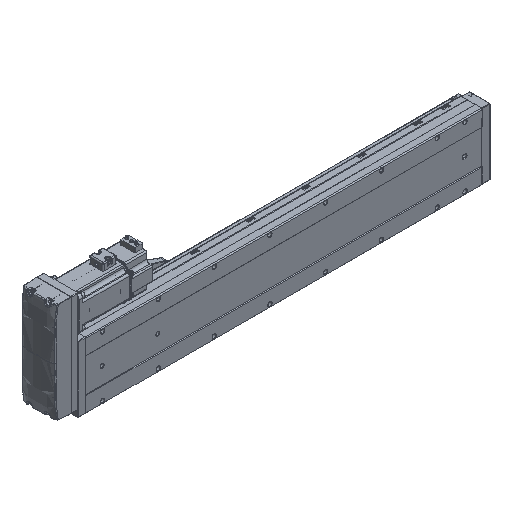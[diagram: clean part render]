
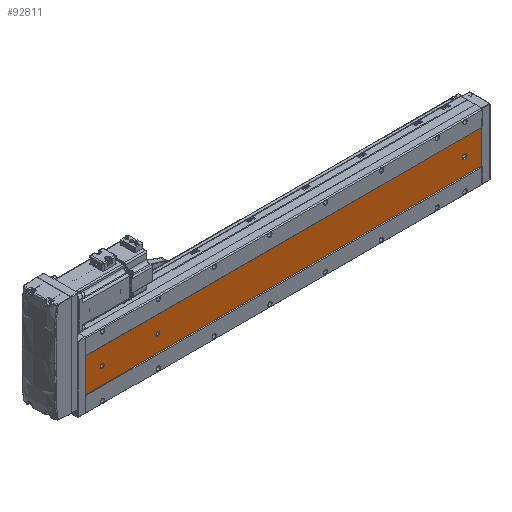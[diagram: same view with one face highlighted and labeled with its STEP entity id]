
A CAD part, isometric view. The second image highlights one B-rep face of the part: STEP entity #92811.
In plain terms, the highlighted planar face has unit normal (0, -1, 0).
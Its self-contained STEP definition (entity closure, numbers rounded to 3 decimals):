
#1593 = CARTESIAN_POINT ( 'NONE',  ( -39.892, -52.848, 681. ) ) ;
#2751 = DIRECTION ( 'NONE',  ( 0., 1., 0. ) ) ;
#3561 = CIRCLE ( 'NONE', #30896, 3.5 ) ;
#3612 = VECTOR ( 'NONE', #20964, 1000. ) ;
#3945 = FACE_OUTER_BOUND ( 'NONE', #68068, .T. ) ;
#4437 = AXIS2_PLACEMENT_3D ( 'NONE', #53413, #62006, #46222 ) ;
#4823 = EDGE_LOOP ( 'NONE', ( #72146, #85753, #62759, #50422, #26899 ) ) ;
#4995 = VECTOR ( 'NONE', #31730, 1000. ) ;
#5261 = DIRECTION ( 'NONE',  ( 0., 0., 1. ) ) ;
#5380 = DIRECTION ( 'NONE',  ( 0., 0., 1. ) ) ;
#5729 = CARTESIAN_POINT ( 'NONE',  ( -9.892, -52.848, 0. ) ) ;
#5938 = VERTEX_POINT ( 'NONE', #78530 ) ;
#5959 = ORIENTED_EDGE ( 'NONE', *, *, #11848, .T. ) ;
#6260 = EDGE_CURVE ( 'NONE', #79007, #98819, #42257, .T. ) ;
#7540 = LINE ( 'NONE', #62255, #3612 ) ;
#8689 = CARTESIAN_POINT ( 'NONE',  ( -39.892, -52.848, 584.5 ) ) ;
#9190 = EDGE_CURVE ( 'NONE', #52177, #98819, #76584, .T. ) ;
#9727 = VECTOR ( 'NONE', #43948, 1000. ) ;
#11047 = DIRECTION ( 'NONE',  ( 0., 1., 0. ) ) ;
#11249 = EDGE_CURVE ( 'NONE', #46476, #102303, #3561, .T. ) ;
#11294 = CARTESIAN_POINT ( 'NONE',  ( -69.892, -52.848, 711. ) ) ;
#11848 = EDGE_CURVE ( 'NONE', #37457, #72638, #85525, .T. ) ;
#12790 = VERTEX_POINT ( 'NONE', #15969 ) ;
#13937 = DIRECTION ( 'NONE',  ( 0., 1., 0. ) ) ;
#15969 = CARTESIAN_POINT ( 'NONE',  ( -39.892, -52.848, 26.5 ) ) ;
#15971 = ORIENTED_EDGE ( 'NONE', *, *, #6260, .T. ) ;
#17703 = VECTOR ( 'NONE', #21787, 1000. ) ;
#17845 = CARTESIAN_POINT ( 'NONE',  ( -39.892, -52.848, 30. ) ) ;
#17848 = VERTEX_POINT ( 'NONE', #60575 ) ;
#18810 = ORIENTED_EDGE ( 'NONE', *, *, #70219, .T. ) ;
#19869 = ORIENTED_EDGE ( 'NONE', *, *, #11249, .T. ) ;
#20964 = DIRECTION ( 'NONE',  ( 0., 0., 1. ) ) ;
#21787 = DIRECTION ( 'NONE',  ( 0., 0., -1. ) ) ;
#24135 = CARTESIAN_POINT ( 'NONE',  ( -69.892, -52.848, 0. ) ) ;
#24327 = LINE ( 'NONE', #11294, #78330 ) ;
#26899 = ORIENTED_EDGE ( 'NONE', *, *, #57830, .T. ) ;
#27438 = EDGE_CURVE ( 'NONE', #67354, #79007, #24327, .T. ) ;
#28946 = AXIS2_PLACEMENT_3D ( 'NONE', #103701, #13937, #5380 ) ;
#30896 = AXIS2_PLACEMENT_3D ( 'NONE', #51245, #11047, #60966 ) ;
#31730 = DIRECTION ( 'NONE',  ( 1., 0., 0. ) ) ;
#31925 = AXIS2_PLACEMENT_3D ( 'NONE', #72663, #81574, #65106 ) ;
#32073 = CARTESIAN_POINT ( 'NONE',  ( -69.892, -52.848, 0. ) ) ;
#34851 = EDGE_CURVE ( 'NONE', #67354, #52177, #94343, .T. ) ;
#35888 = AXIS2_PLACEMENT_3D ( 'NONE', #17845, #2751, #84201 ) ;
#36522 = CARTESIAN_POINT ( 'NONE',  ( -39.892, -52.848, 30. ) ) ;
#37457 = VERTEX_POINT ( 'NONE', #73614 ) ;
#38142 = EDGE_CURVE ( 'NONE', #42643, #5938, #67538, .T. ) ;
#39258 = AXIS2_PLACEMENT_3D ( 'NONE', #1593, #94170, #43237 ) ;
#40902 = AXIS2_PLACEMENT_3D ( 'NONE', #54107, #46193, #5261 ) ;
#42257 = LINE ( 'NONE', #32073, #4995 ) ;
#42643 = VERTEX_POINT ( 'NONE', #59329 ) ;
#43237 = DIRECTION ( 'NONE',  ( 0., 0., 1. ) ) ;
#43948 = DIRECTION ( 'NONE',  ( 0., 0., -1. ) ) ;
#44432 = DIRECTION ( 'NONE',  ( 0., 1., 0. ) ) ;
#45024 = CARTESIAN_POINT ( 'NONE',  ( -9.892, -52.848, 711. ) ) ;
#46193 = DIRECTION ( 'NONE',  ( 0., 1., 0. ) ) ;
#46222 = DIRECTION ( 'NONE',  ( 0., 0., 1. ) ) ;
#46476 = VERTEX_POINT ( 'NONE', #8689 ) ;
#46946 = VECTOR ( 'NONE', #85618, 1000. ) ;
#46958 = CARTESIAN_POINT ( 'NONE',  ( -36.392, -52.848, 30. ) ) ;
#48433 = CIRCLE ( 'NONE', #35888, 3.5 ) ;
#48810 = ORIENTED_EDGE ( 'NONE', *, *, #74607, .T. ) ;
#50422 = ORIENTED_EDGE ( 'NONE', *, *, #58434, .T. ) ;
#51245 = CARTESIAN_POINT ( 'NONE',  ( -39.892, -52.848, 581. ) ) ;
#52177 = VERTEX_POINT ( 'NONE', #86750 ) ;
#52354 = CARTESIAN_POINT ( 'NONE',  ( -39.892, -52.848, 577.5 ) ) ;
#53413 = CARTESIAN_POINT ( 'NONE',  ( -39.892, -52.848, 581. ) ) ;
#54107 = CARTESIAN_POINT ( 'NONE',  ( -39.892, -52.848, 681. ) ) ;
#54208 = EDGE_CURVE ( 'NONE', #17848, #42643, #7540, .T. ) ;
#57830 = EDGE_CURVE ( 'NONE', #12790, #17848, #66421, .T. ) ;
#58434 = EDGE_CURVE ( 'NONE', #102875, #12790, #48433, .T. ) ;
#58536 = CARTESIAN_POINT ( 'NONE',  ( -69.892, -52.848, 711. ) ) ;
#59329 = CARTESIAN_POINT ( 'NONE',  ( -43.392, -52.848, 32. ) ) ;
#60575 = CARTESIAN_POINT ( 'NONE',  ( -43.392, -52.848, 30. ) ) ;
#60966 = DIRECTION ( 'NONE',  ( 0., 0., 1. ) ) ;
#62006 = DIRECTION ( 'NONE',  ( 0., 1., 0. ) ) ;
#62255 = CARTESIAN_POINT ( 'NONE',  ( -43.392, -52.848, 711. ) ) ;
#62759 = ORIENTED_EDGE ( 'NONE', *, *, #86228, .T. ) ;
#63867 = EDGE_LOOP ( 'NONE', ( #18810, #19869 ) ) ;
#64693 = CIRCLE ( 'NONE', #4437, 3.5 ) ;
#65106 = DIRECTION ( 'NONE',  ( 0., 0., 1. ) ) ;
#66421 = CIRCLE ( 'NONE', #77075, 3.5 ) ;
#66875 = FACE_BOUND ( 'NONE', #4823, .T. ) ;
#67354 = VERTEX_POINT ( 'NONE', #58536 ) ;
#67538 = CIRCLE ( 'NONE', #28946, 3.5 ) ;
#68068 = EDGE_LOOP ( 'NONE', ( #15971, #100600, #88115, #93863 ) ) ;
#68465 = DIRECTION ( 'NONE',  ( 0., 0., 1. ) ) ;
#70219 = EDGE_CURVE ( 'NONE', #102303, #46476, #64693, .T. ) ;
#72064 = FACE_BOUND ( 'NONE', #94772, .T. ) ;
#72146 = ORIENTED_EDGE ( 'NONE', *, *, #54208, .T. ) ;
#72638 = VERTEX_POINT ( 'NONE', #89772 ) ;
#72663 = CARTESIAN_POINT ( 'NONE',  ( -69.892, -52.848, 711. ) ) ;
#73296 = FACE_BOUND ( 'NONE', #63867, .T. ) ;
#73614 = CARTESIAN_POINT ( 'NONE',  ( -39.892, -52.848, 677.5 ) ) ;
#74607 = EDGE_CURVE ( 'NONE', #72638, #37457, #95982, .T. ) ;
#76584 = LINE ( 'NONE', #45024, #9727 ) ;
#77075 = AXIS2_PLACEMENT_3D ( 'NONE', #36522, #44432, #68465 ) ;
#78330 = VECTOR ( 'NONE', #94539, 1000. ) ;
#78530 = CARTESIAN_POINT ( 'NONE',  ( -36.392, -52.848, 32. ) ) ;
#79007 = VERTEX_POINT ( 'NONE', #24135 ) ;
#81574 = DIRECTION ( 'NONE',  ( 0., 1., 0. ) ) ;
#83172 = LINE ( 'NONE', #101462, #17703 ) ;
#84201 = DIRECTION ( 'NONE',  ( 0., 0., 1. ) ) ;
#85525 = CIRCLE ( 'NONE', #39258, 3.5 ) ;
#85618 = DIRECTION ( 'NONE',  ( 1., 0., 0. ) ) ;
#85753 = ORIENTED_EDGE ( 'NONE', *, *, #38142, .T. ) ;
#86228 = EDGE_CURVE ( 'NONE', #5938, #102875, #83172, .T. ) ;
#86750 = CARTESIAN_POINT ( 'NONE',  ( -9.892, -52.848, 711. ) ) ;
#88115 = ORIENTED_EDGE ( 'NONE', *, *, #34851, .F. ) ;
#89772 = CARTESIAN_POINT ( 'NONE',  ( -39.892, -52.848, 684.5 ) ) ;
#92811 = ADVANCED_FACE ( 'NONE', ( #66875, #73296, #72064, #3945 ), #97375, .F. ) ;
#93863 = ORIENTED_EDGE ( 'NONE', *, *, #27438, .T. ) ;
#94170 = DIRECTION ( 'NONE',  ( 0., 1., 0. ) ) ;
#94343 = LINE ( 'NONE', #102509, #46946 ) ;
#94539 = DIRECTION ( 'NONE',  ( 0., 0., -1. ) ) ;
#94772 = EDGE_LOOP ( 'NONE', ( #5959, #48810 ) ) ;
#95982 = CIRCLE ( 'NONE', #40902, 3.5 ) ;
#97375 = PLANE ( 'NONE',  #31925 ) ;
#98819 = VERTEX_POINT ( 'NONE', #5729 ) ;
#100600 = ORIENTED_EDGE ( 'NONE', *, *, #9190, .F. ) ;
#101462 = CARTESIAN_POINT ( 'NONE',  ( -36.392, -52.848, 711. ) ) ;
#102303 = VERTEX_POINT ( 'NONE', #52354 ) ;
#102509 = CARTESIAN_POINT ( 'NONE',  ( -69.892, -52.848, 711. ) ) ;
#102875 = VERTEX_POINT ( 'NONE', #46958 ) ;
#103701 = CARTESIAN_POINT ( 'NONE',  ( -39.892, -52.848, 32. ) ) ;
